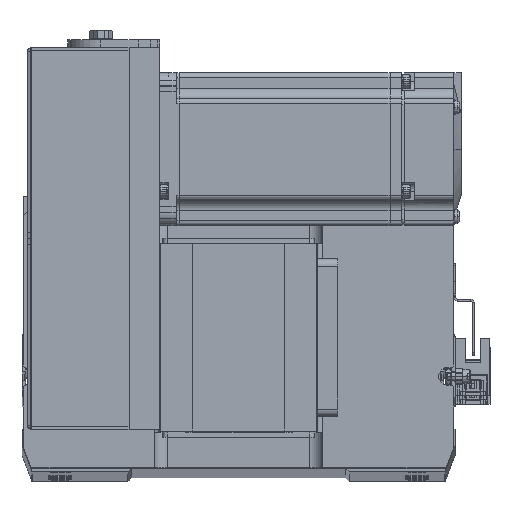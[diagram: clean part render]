
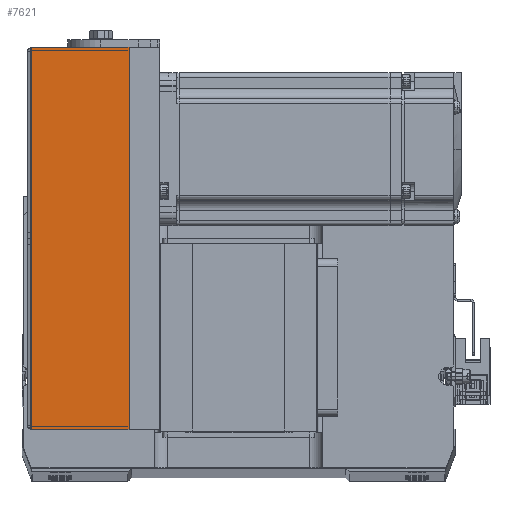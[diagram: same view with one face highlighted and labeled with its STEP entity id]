
A CAD part, top view. The second image highlights one B-rep face of the part: STEP entity #7621.
In plain terms, the highlighted planar face has unit normal (0, 0, 1) as drawn and (0, 1, 0) by its records, which use the part's own axes.
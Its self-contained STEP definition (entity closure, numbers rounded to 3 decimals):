
#865 = DIRECTION ( 'NONE',  ( -1., 0., 0. ) ) ;
#1131 = CARTESIAN_POINT ( 'NONE',  ( 0., 36., 12. ) ) ;
#2128 = ORIENTED_EDGE ( 'NONE', *, *, #19280, .F. ) ;
#2875 = CARTESIAN_POINT ( 'NONE',  ( 75., 36., 12. ) ) ;
#4184 = DIRECTION ( 'NONE',  ( 0., 0., -1. ) ) ;
#7621 = ADVANCED_FACE ( 'NONE', ( #11971 ), #8363, .F. ) ;
#8363 = PLANE ( 'NONE',  #17896 ) ;
#8365 = ORIENTED_EDGE ( 'NONE', *, *, #15953, .F. ) ;
#9581 = CARTESIAN_POINT ( 'NONE',  ( -75., 36., 50.3 ) ) ;
#10133 = VERTEX_POINT ( 'NONE', #33540 ) ;
#10459 = LINE ( 'NONE', #38269, #16085 ) ;
#11502 = VECTOR ( 'NONE', #22440, 1000. ) ;
#11531 = EDGE_CURVE ( 'NONE', #43463, #12607, #32327, .T. ) ;
#11971 = FACE_OUTER_BOUND ( 'NONE', #36716, .T. ) ;
#12607 = VERTEX_POINT ( 'NONE', #31951 ) ;
#15299 = LINE ( 'NONE', #39521, #36289 ) ;
#15583 = CARTESIAN_POINT ( 'NONE',  ( 0., 36., 50.8 ) ) ;
#15803 = DIRECTION ( 'NONE',  ( 0., -1., 0. ) ) ;
#15953 = EDGE_CURVE ( 'NONE', #10133, #22317, #10459, .T. ) ;
#16085 = VECTOR ( 'NONE', #865, 1000. ) ;
#17896 = AXIS2_PLACEMENT_3D ( 'NONE', #15583, #15803, #25394 ) ;
#18613 = ORIENTED_EDGE ( 'NONE', *, *, #19849, .T. ) ;
#19280 = EDGE_CURVE ( 'NONE', #22317, #12607, #15299, .T. ) ;
#19849 = EDGE_CURVE ( 'NONE', #10133, #43463, #25629, .T. ) ;
#22317 = VERTEX_POINT ( 'NONE', #9581 ) ;
#22440 = DIRECTION ( 'NONE',  ( 0., 0., -1. ) ) ;
#25394 = DIRECTION ( 'NONE',  ( 0., 0., 1. ) ) ;
#25485 = DIRECTION ( 'NONE',  ( -1., 0., 0. ) ) ;
#25629 = LINE ( 'NONE', #42563, #11502 ) ;
#31951 = CARTESIAN_POINT ( 'NONE',  ( -75., 36., 12. ) ) ;
#32327 = LINE ( 'NONE', #1131, #32374 ) ;
#32374 = VECTOR ( 'NONE', #25485, 1000. ) ;
#33540 = CARTESIAN_POINT ( 'NONE',  ( 75., 36., 50.3 ) ) ;
#36289 = VECTOR ( 'NONE', #4184, 1000. ) ;
#36716 = EDGE_LOOP ( 'NONE', ( #8365, #18613, #42908, #2128 ) ) ;
#38269 = CARTESIAN_POINT ( 'NONE',  ( -75., 36., 50.3 ) ) ;
#39521 = CARTESIAN_POINT ( 'NONE',  ( -75., 36., 50.3 ) ) ;
#42563 = CARTESIAN_POINT ( 'NONE',  ( 75., 36., 50.3 ) ) ;
#42908 = ORIENTED_EDGE ( 'NONE', *, *, #11531, .T. ) ;
#43463 = VERTEX_POINT ( 'NONE', #2875 ) ;
